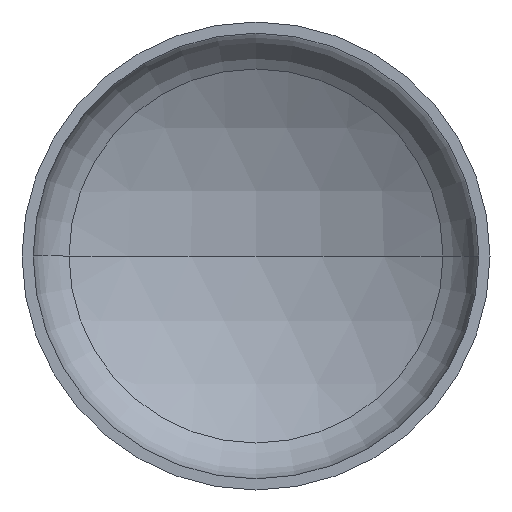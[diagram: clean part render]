
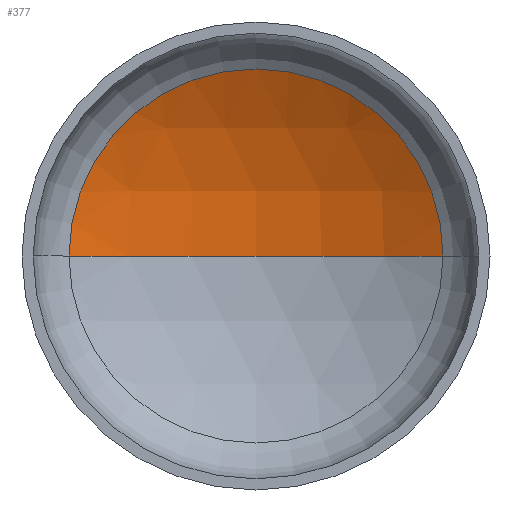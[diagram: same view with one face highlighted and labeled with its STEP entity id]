
A CAD part, front view. The second image highlights one B-rep face of the part: STEP entity #377.
In plain terms, the highlighted spherical face has radius 1440 mm.
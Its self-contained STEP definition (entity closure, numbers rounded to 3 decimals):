
#3 = CARTESIAN_POINT ( 'NONE',  ( 0., -879.208, 0. ) ) ;
#27 = AXIS2_PLACEMENT_3D ( 'NONE', #3, #356, #121 ) ;
#33 = AXIS2_PLACEMENT_3D ( 'NONE', #235, #140, #243 ) ;
#35 = AXIS2_PLACEMENT_3D ( 'NONE', #110, #139, #135 ) ;
#50 = ORIENTED_EDGE ( 'NONE', *, *, #93, .F. ) ;
#91 = EDGE_CURVE ( 'NONE', #303, #95, #282, .T. ) ;
#92 = EDGE_CURVE ( 'NONE', #172, #303, #400, .T. ) ;
#93 = EDGE_CURVE ( 'NONE', #172, #95, #272, .T. ) ;
#95 = VERTEX_POINT ( 'NONE', #213 ) ;
#110 = CARTESIAN_POINT ( 'NONE',  ( 0., 368.225, 0. ) ) ;
#121 = DIRECTION ( 'NONE',  ( 1., 0., 0. ) ) ;
#133 = FACE_OUTER_BOUND ( 'NONE', #142, .T. ) ;
#135 = DIRECTION ( 'NONE',  ( 1., 0., 0. ) ) ;
#139 = DIRECTION ( 'NONE',  ( 0., -1., 0. ) ) ;
#140 = DIRECTION ( 'NONE',  ( 0., 0., -1. ) ) ;
#142 = EDGE_LOOP ( 'NONE', ( #50, #193, #185 ) ) ;
#172 = VERTEX_POINT ( 'NONE', #179 ) ;
#179 = CARTESIAN_POINT ( 'NONE',  ( 0., 560.792, 0. ) ) ;
#185 = ORIENTED_EDGE ( 'NONE', *, *, #91, .T. ) ;
#193 = ORIENTED_EDGE ( 'NONE', *, *, #92, .T. ) ;
#213 = CARTESIAN_POINT ( 'NONE',  ( -719.382, 368.225, 0. ) ) ;
#235 = CARTESIAN_POINT ( 'NONE',  ( 0., -879.208, 0. ) ) ;
#243 = DIRECTION ( 'NONE',  ( -1., 0., 0. ) ) ;
#260 = CARTESIAN_POINT ( 'NONE',  ( 0., -879.208, 0. ) ) ;
#272 = CIRCLE ( 'NONE', #27, 1440. ) ;
#281 = DIRECTION ( 'NONE',  ( -1., 0., 0. ) ) ;
#282 = CIRCLE ( 'NONE', #35, 719.382 ) ;
#298 = SPHERICAL_SURFACE ( 'NONE', #334, 1440. ) ;
#303 = VERTEX_POINT ( 'NONE', #323 ) ;
#323 = CARTESIAN_POINT ( 'NONE',  ( 719.382, 368.225, 0. ) ) ;
#328 = DIRECTION ( 'NONE',  ( 0., 0., -1. ) ) ;
#334 = AXIS2_PLACEMENT_3D ( 'NONE', #260, #328, #281 ) ;
#356 = DIRECTION ( 'NONE',  ( 0., 0., 1. ) ) ;
#377 = ADVANCED_FACE ( 'NONE', ( #133 ), #298, .F. ) ;
#400 = CIRCLE ( 'NONE', #33, 1440. ) ;
